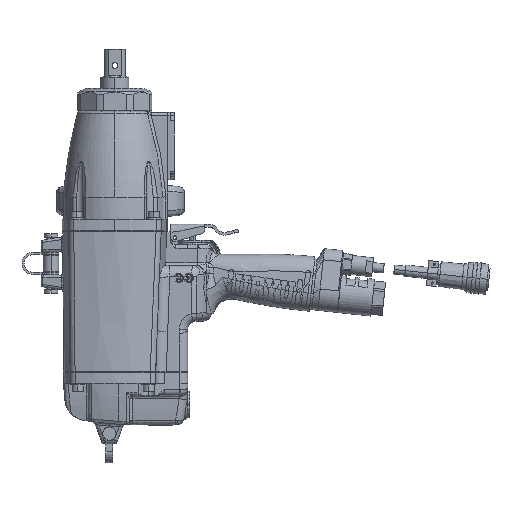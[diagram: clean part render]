
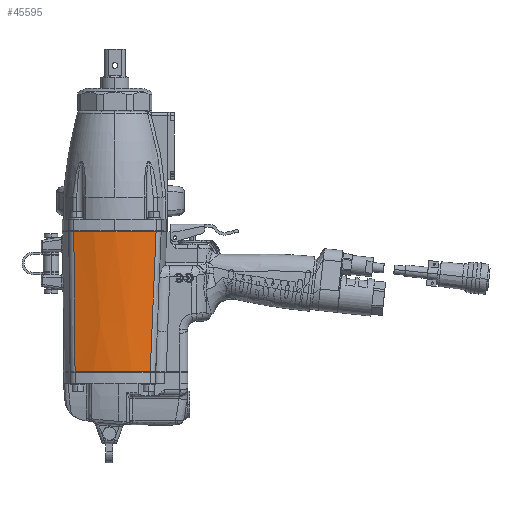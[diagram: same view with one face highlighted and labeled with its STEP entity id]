
A CAD part, left-side view. The second image highlights one B-rep face of the part: STEP entity #45595.
In plain terms, the highlighted free-form (B-spline) face has degree [3, 3] with [4, 6] control points.
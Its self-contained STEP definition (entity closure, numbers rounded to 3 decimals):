
#43882 = VERTEX_POINT ( 'NONE', #133178 ) ;
#43884 = EDGE_CURVE ( 'NONE', #43885, #43882, #133308, .T. ) ;
#43885 = VERTEX_POINT ( 'NONE', #133299 ) ;
#45594 = EDGE_CURVE ( 'NONE', #45607, #43885, #159057, .T. ) ;
#45595 = ADVANCED_FACE ( 'NONE', ( #159067 ), #159082, .T. ) ;
#45596 = EDGE_LOOP ( 'NONE', ( #45598, #45599, #45600, #45601 ) ) ;
#45598 = ORIENTED_EDGE ( 'NONE', *, *, #45609, .F. ) ;
#45599 = ORIENTED_EDGE ( 'NONE', *, *, #45594, .T. ) ;
#45600 = ORIENTED_EDGE ( 'NONE', *, *, #43884, .T. ) ;
#45601 = ORIENTED_EDGE ( 'NONE', *, *, #45602, .F. ) ;
#45602 = EDGE_CURVE ( 'NONE', #45610, #43882, #159086, .T. ) ;
#45607 = VERTEX_POINT ( 'NONE', #159289 ) ;
#45609 = EDGE_CURVE ( 'NONE', #45607, #45610, #159286, .T. ) ;
#45610 = VERTEX_POINT ( 'NONE', #159278 ) ;
#133178 = CARTESIAN_POINT ( 'NONE',  ( -42.262, -31.505, -125. ) ) ;
#133299 = CARTESIAN_POINT ( 'NONE',  ( -40.018, 35.628, -125. ) ) ;
#133301 = DIRECTION ( 'NONE',  ( 1., 0., 0. ) ) ;
#133303 = DIRECTION ( 'NONE',  ( 0., 0., 1. ) ) ;
#133305 = CARTESIAN_POINT ( 'NONE',  ( 74., -1.786, -125. ) ) ;
#133306 = AXIS2_PLACEMENT_3D ( 'NONE', #133305, #133303, #133301 ) ;
#133308 = CIRCLE ( 'NONE', #133306, 120. ) ;
#159055 = CARTESIAN_POINT ( 'NONE',  ( -40.631, 36.175, -62.5 ) ) ;
#159057 = LINE ( 'NONE', #159055, #159078 ) ;
#159067 = FACE_OUTER_BOUND ( 'NONE', #45596, .T. ) ;
#159075 = DIRECTION ( 'NONE',  ( 0.01, -0.009, -1. ) ) ;
#159078 = VECTOR ( 'NONE', #159075, 1000. ) ;
#159082 =( BOUNDED_SURFACE ( )  B_SPLINE_SURFACE ( 3, 3, ( 
 ( #159205, #159203, #159201, #159199, #159197, #159195 ),
 ( #159187, #159185, #159183, #159181, #159179, #159177 ),
 ( #159174, #159173, #159171, #159169, #159167, #159165 ),
 ( #159162, #159160, #159158, #159156, #159154, #159152 ) ),
 .UNSPECIFIED., .F., .F., .T. ) 
 B_SPLINE_SURFACE_WITH_KNOTS ( ( 4, 4 ),
 ( 4, 1, 1, 4 ),
 ( 0.625, 0.75 ),
 ( 0., 0.333, 0.667, 1. ),
 .UNSPECIFIED. ) 
 GEOMETRIC_REPRESENTATION_ITEM ( )  RATIONAL_B_SPLINE_SURFACE ( (
 ( 1., 1., 1., 1., 1., 1.),
 ( 0.968, 0.968, 0.97, 0.971, 0.973, 0.973),
 ( 0.968, 0.968, 0.97, 0.971, 0.973, 0.973),
 ( 1., 1., 1., 1., 1., 1.) ) ) 
 REPRESENTATION_ITEM ( '' )  SURFACE ( )  );
#159084 = CARTESIAN_POINT ( 'NONE',  ( -41.753, -34.113, -62.5 ) ) ;
#159086 = LINE ( 'NONE', #159084, #159221 ) ;
#159104 = DIRECTION ( 'NONE',  ( -0.008, 0.042, -0.999 ) ) ;
#159152 = CARTESIAN_POINT ( 'NONE',  ( -40.018, 35.628, -125. ) ) ;
#159154 = CARTESIAN_POINT ( 'NONE',  ( -40.155, 35.749, -111.111 ) ) ;
#159156 = CARTESIAN_POINT ( 'NONE',  ( -40.427, 35.992, -83.333 ) ) ;
#159158 = CARTESIAN_POINT ( 'NONE',  ( -40.835, 36.357, -41.667 ) ) ;
#159160 = CARTESIAN_POINT ( 'NONE',  ( -41.107, 36.6, -13.889 ) ) ;
#159162 = CARTESIAN_POINT ( 'NONE',  ( -41.243, 36.721, 0. ) ) ;
#159165 = CARTESIAN_POINT ( 'NONE',  ( -47.19, 13.772, -125. ) ) ;
#159167 = CARTESIAN_POINT ( 'NONE',  ( -47.391, 13.65, -110.926 ) ) ;
#159169 = CARTESIAN_POINT ( 'NONE',  ( -47.794, 13.406, -82.684 ) ) ;
#159171 = CARTESIAN_POINT ( 'NONE',  ( -48.392, 13.031, -40.991 ) ) ;
#159173 = CARTESIAN_POINT ( 'NONE',  ( -48.785, 12.774, -13.694 ) ) ;
#159174 = CARTESIAN_POINT ( 'NONE',  ( -48.982, 12.645, 0. ) ) ;
#159177 = CARTESIAN_POINT ( 'NONE',  ( -47.959, -9.218, -125. ) ) ;
#159179 = CARTESIAN_POINT ( 'NONE',  ( -48.065, -9.596, -111.253 ) ) ;
#159181 = CARTESIAN_POINT ( 'NONE',  ( -48.279, -10.353, -83.668 ) ) ;
#159183 = CARTESIAN_POINT ( 'NONE',  ( -48.62, -11.495, -42.018 ) ) ;
#159185 = CARTESIAN_POINT ( 'NONE',  ( -48.861, -12.261, -14.037 ) ) ;
#159187 = CARTESIAN_POINT ( 'NONE',  ( -48.982, -12.645, 0. ) ) ;
#159195 = CARTESIAN_POINT ( 'NONE',  ( -42.262, -31.505, -125. ) ) ;
#159197 = CARTESIAN_POINT ( 'NONE',  ( -42.149, -32.084, -111.111 ) ) ;
#159199 = CARTESIAN_POINT ( 'NONE',  ( -41.922, -33.244, -83.333 ) ) ;
#159201 = CARTESIAN_POINT ( 'NONE',  ( -41.583, -34.982, -41.667 ) ) ;
#159203 = CARTESIAN_POINT ( 'NONE',  ( -41.357, -36.142, -13.889 ) ) ;
#159205 = CARTESIAN_POINT ( 'NONE',  ( -41.243, -36.721, 0. ) ) ;
#159221 = VECTOR ( 'NONE', #159104, 1000. ) ;
#159278 = CARTESIAN_POINT ( 'NONE',  ( -41.243, -36.721, 0. ) ) ;
#159280 = DIRECTION ( 'NONE',  ( 1., 0., 0. ) ) ;
#159282 = DIRECTION ( 'NONE',  ( 0., 0., 1. ) ) ;
#159284 = AXIS2_PLACEMENT_3D ( 'NONE', #159301, #159282, #159280 ) ;
#159286 = CIRCLE ( 'NONE', #159284, 120. ) ;
#159289 = CARTESIAN_POINT ( 'NONE',  ( -41.243, 36.721, 0. ) ) ;
#159301 = CARTESIAN_POINT ( 'NONE',  ( 73., 0., 0. ) ) ;
